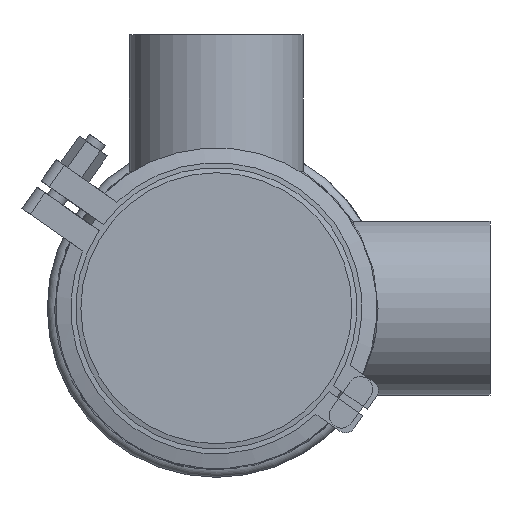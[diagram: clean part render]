
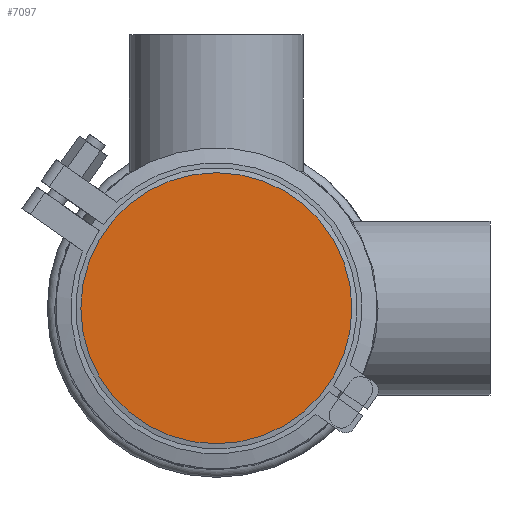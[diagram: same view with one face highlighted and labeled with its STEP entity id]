
A CAD part, front view. The second image highlights one B-rep face of the part: STEP entity #7097.
In plain terms, the highlighted planar face has unit normal (0, -1, 0).
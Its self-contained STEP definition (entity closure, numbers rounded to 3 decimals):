
#581 = ORIENTED_EDGE ( 'NONE', *, *, #18124, .F. ) ;
#2793 = FACE_OUTER_BOUND ( 'NONE', #5428, .T. ) ;
#2898 = CARTESIAN_POINT ( 'NONE',  ( -54.5, 0., 0. ) ) ;
#3336 = CARTESIAN_POINT ( 'NONE',  ( 0., 0., 0. ) ) ;
#5030 = VERTEX_POINT ( 'NONE', #11573 ) ;
#5428 = EDGE_LOOP ( 'NONE', ( #581 ) ) ;
#7097 = ADVANCED_FACE ( 'NONE', ( #2793 ), #11050, .T. ) ;
#7219 = AXIS2_PLACEMENT_3D ( 'NONE', #2898, #14035, #9010 ) ;
#7425 = CIRCLE ( 'NONE', #12891, 54.5 ) ;
#9010 = DIRECTION ( 'NONE',  ( 0., 0., -1. ) ) ;
#11050 = PLANE ( 'NONE',  #7219 ) ;
#11573 = CARTESIAN_POINT ( 'NONE',  ( 0., 0., 54.5 ) ) ;
#12891 = AXIS2_PLACEMENT_3D ( 'NONE', #3336, #13193, #19588 ) ;
#13193 = DIRECTION ( 'NONE',  ( 0., 1., 0. ) ) ;
#14035 = DIRECTION ( 'NONE',  ( 0., -1., 0. ) ) ;
#18124 = EDGE_CURVE ( 'NONE', #5030, #5030, #7425, .T. ) ;
#19588 = DIRECTION ( 'NONE',  ( 0., 0., 1. ) ) ;
